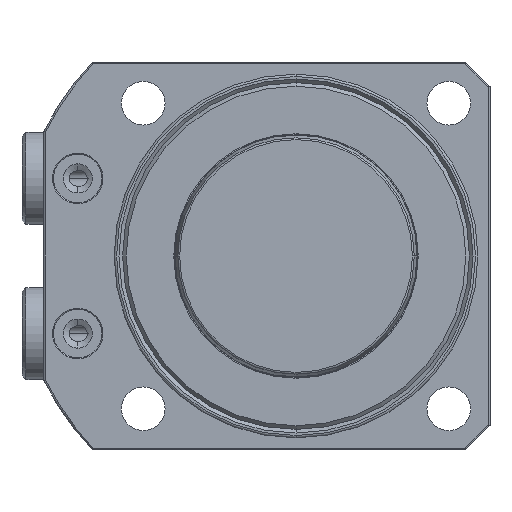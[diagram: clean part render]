
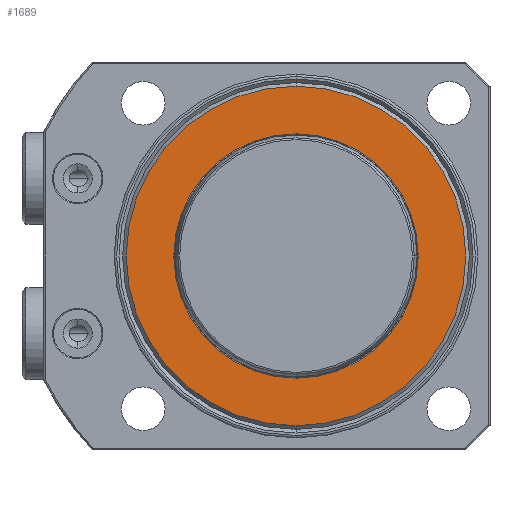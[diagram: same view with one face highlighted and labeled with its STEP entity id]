
A CAD part, front view. The second image highlights one B-rep face of the part: STEP entity #1689.
In plain terms, the highlighted planar face has unit normal (0, -1, 0) as drawn and (1, 0, 0) by its records, which use the part's own axes.
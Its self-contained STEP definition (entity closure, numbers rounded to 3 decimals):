
#121 = CIRCLE ( 'NONE', #4829, 25.2 ) ;
#217 = EDGE_CURVE ( 'NONE', #5328, #2904, #248, .T. ) ;
#248 = CIRCLE ( 'NONE', #2340, 35. ) ;
#389 = CARTESIAN_POINT ( 'NONE',  ( 64., 0., -25.2 ) ) ;
#406 = PLANE ( 'NONE',  #5614 ) ;
#496 = CARTESIAN_POINT ( 'NONE',  ( 64., 0., 25.2 ) ) ;
#852 = VERTEX_POINT ( 'NONE', #496 ) ;
#902 = CARTESIAN_POINT ( 'NONE',  ( 64., 0., 0. ) ) ;
#951 = ORIENTED_EDGE ( 'NONE', *, *, #2253, .T. ) ;
#1086 = DIRECTION ( 'NONE',  ( -1., 0., 0. ) ) ;
#1229 = CARTESIAN_POINT ( 'NONE',  ( 64., 0., 0. ) ) ;
#1291 = FACE_OUTER_BOUND ( 'NONE', #3062, .T. ) ;
#1336 = AXIS2_PLACEMENT_3D ( 'NONE', #1992, #5036, #2424 ) ;
#1345 = DIRECTION ( 'NONE',  ( 0., 0., 1. ) ) ;
#1680 = DIRECTION ( 'NONE',  ( 0., 0., 1. ) ) ;
#1689 = ADVANCED_FACE ( 'NONE', ( #3618, #1291 ), #406, .T. ) ;
#1899 = DIRECTION ( 'NONE',  ( 0., 0., -1. ) ) ;
#1992 = CARTESIAN_POINT ( 'NONE',  ( 64., 0., 0. ) ) ;
#2253 = EDGE_CURVE ( 'NONE', #852, #4693, #121, .T. ) ;
#2340 = AXIS2_PLACEMENT_3D ( 'NONE', #3693, #1086, #4132 ) ;
#2382 = ORIENTED_EDGE ( 'NONE', *, *, #217, .F. ) ;
#2424 = DIRECTION ( 'NONE',  ( 0., 0., 1. ) ) ;
#2825 = CARTESIAN_POINT ( 'NONE',  ( 64., 0., 35. ) ) ;
#2904 = VERTEX_POINT ( 'NONE', #2825 ) ;
#3038 = AXIS2_PLACEMENT_3D ( 'NONE', #1229, #4289, #1680 ) ;
#3062 = EDGE_LOOP ( 'NONE', ( #3943, #2382 ) ) ;
#3484 = ORIENTED_EDGE ( 'NONE', *, *, #4547, .T. ) ;
#3618 = FACE_BOUND ( 'NONE', #5563, .T. ) ;
#3693 = CARTESIAN_POINT ( 'NONE',  ( 64., 0., 0. ) ) ;
#3943 = ORIENTED_EDGE ( 'NONE', *, *, #5511, .F. ) ;
#3952 = DIRECTION ( 'NONE',  ( -1., 0., 0. ) ) ;
#4132 = DIRECTION ( 'NONE',  ( 0., 0., 1. ) ) ;
#4185 = CARTESIAN_POINT ( 'NONE',  ( 64., 0., -35. ) ) ;
#4289 = DIRECTION ( 'NONE',  ( -1., 0., 0. ) ) ;
#4489 = DIRECTION ( 'NONE',  ( 1., 0., 0. ) ) ;
#4547 = EDGE_CURVE ( 'NONE', #4693, #852, #4572, .T. ) ;
#4572 = CIRCLE ( 'NONE', #1336, 25.2 ) ;
#4631 = CIRCLE ( 'NONE', #3038, 35. ) ;
#4693 = VERTEX_POINT ( 'NONE', #389 ) ;
#4743 = CARTESIAN_POINT ( 'NONE',  ( 64., 25.2, 0. ) ) ;
#4829 = AXIS2_PLACEMENT_3D ( 'NONE', #902, #3952, #1345 ) ;
#5036 = DIRECTION ( 'NONE',  ( -1., 0., 0. ) ) ;
#5328 = VERTEX_POINT ( 'NONE', #4185 ) ;
#5511 = EDGE_CURVE ( 'NONE', #2904, #5328, #4631, .T. ) ;
#5563 = EDGE_LOOP ( 'NONE', ( #951, #3484 ) ) ;
#5614 = AXIS2_PLACEMENT_3D ( 'NONE', #4743, #4489, #1899 ) ;
